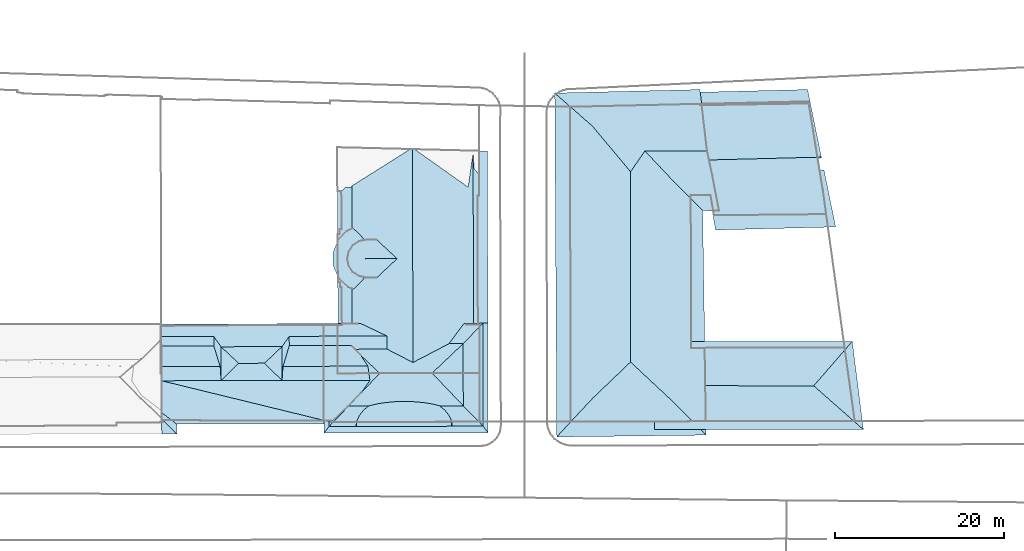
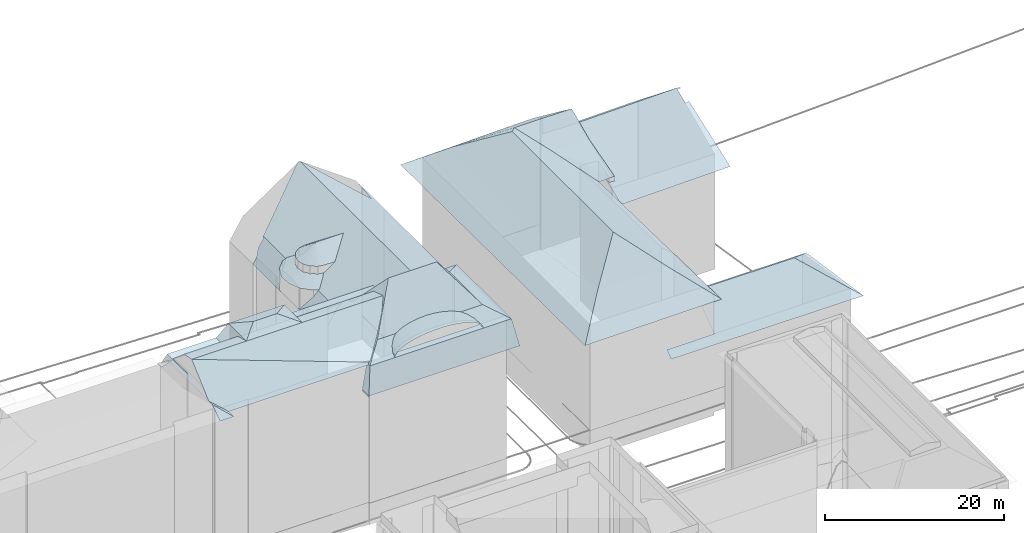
# Not in any storey, part 91 of 477: 4 roofs.
"""IFC4 building model written with IfcOpenShell, lengths in metres."""

from ifc_helpers import new_model, si_unit, frame, origin_with_axes, place, context, subcontext, project, spatial, polygons, element, save


model = new_model("IFC4")

# Units and contexts
model_context = context("Model", 3, precision=1e-05, world=origin_with_axes())
body_context = subcontext(model_context, "Body", "Model", "MODEL_VIEW")
ifc_project = project(units=[si_unit("AREAUNIT", "SQUARE_METRE"), si_unit("LENGTHUNIT", "METRE")], contexts=[model_context])

# Sites, building
site_1_placement = place(None, origin_with_axes())
site_1 = spatial("IfcSite", under=ifc_project, at=site_1_placement, Name="Topoexport Site")
site_2_placement = place(site_1_placement, origin_with_axes())
site_2 = spatial("IfcSite", under=site_1, at=site_2_placement, Name="TPX_BUILDINGS")
building_1_placement = place(site_2_placement, frame((609.5167320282, 438.1375160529, 539.7593), z_axis=(0.0, 0.0, 1.0), x_axis=(1.0, 0.0, 0.0)))
building_1 = spatial("IfcBuilding", under=site_2, at=building_1_placement, Name="Building 191", CompositionType="ELEMENT")

# Roofs
roof_1_placement = place(None, frame((609.5167320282, 438.1375160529, 539.7593), z_axis=(0.0, 0.0, 1.0), x_axis=(1.0, 0.0, 0.0)))
element("IfcRoof", 1, at=roof_1_placement, inside=building_1, Name="Roof 0", context=body_context, shape_type="Tessellation", body=[
    polygons([(7.182, -6.7129000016, 26.5614), (0.1229999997, -6.7294999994, 26.5614), (0.117999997, -5.0557000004, 26.2435), (7.0639999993, -5.0390999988, 26.2435), (22.6569999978, -2.5487999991, 24.1586), (23.7399999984, -3.7177999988, 25.1555), (15.2630000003, -2.566399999, 24.1586), (14.5229999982, -5.0195000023, 26.2434), (24.5859999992, -4.995099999, 26.2434), (23.8159999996, -3.7168000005, 25.1555), (6.3129999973, -2.5888999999, 24.1587), (0.1099999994, -2.6035000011, 24.1587), (9.2599999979, -4.6561999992, 27.2724), (7.1719999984, -2.697300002, 26.5614), (14.4029999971, -2.6787, 26.5614), (14.4129999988, -6.6942999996, 26.5614), (12.3249999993, -4.6484000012, 27.2724), (0.0039999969, -1.4941000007, 24.1587), (0.1109999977, -2.8388999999, 24.1587), (0.0149999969, -5.9228999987, 24.1587), (6.3099999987, -1.4785000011, 24.1587), (0.1209999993, -5.9228999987, 24.1587), (26.873999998, -2.9805000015, 24.1586), (22.8899999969, -2.7831999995, 24.1586), (15.2599999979, -1.4570000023, 24.1587), (26.8699999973, -1.4277000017, 24.1586), (23.0949999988, -2.9912, 24.1586), (24.8359999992, -6.6689000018, 26.5614), (37.7669999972, -11.6112999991, 22.2818), (35.9029999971, -9.6992000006, 23.2977), (35.8849999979, -2.3300999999, 23.2977), (37.8439999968, -0.2987999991, 22.2248), (38.2239999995, 0.0947000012, 22.0168), (38.2539999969, -12.1112999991, 22.0168), (20.117999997, -11.441399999, 22.0938), (19.9759999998, -11.5283000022, 22.0168), (19.9759999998, -11.441399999, 22.0168), (20.4719999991, -11.6445000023, 22.2878), (23.1619999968, -12.1484000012, 22.0168), (19.9780000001, -12.1572000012, 22.0168), (22.3169999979, -9.7314000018, 23.2977), (23.5729999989, -10.8486000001, 22.7048), (23.2469999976, -11.566399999, 22.3248), (24.6699999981, -9.7256000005, 23.2977), (24.1019999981, -10.1875, 23.0537), (34.2029999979, -2.3339999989, 23.2977), (36.0039999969, 0.0898000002, 22.0168), (34.5309999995, -11.5390999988, 22.3248), (34.2019999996, -10.8232000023, 22.7048), (33.6689999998, -10.1649999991, 23.0537), (33.0989999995, -9.7061000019, 23.2977), (34.618999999, -12.121100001, 22.0168), (23.2479999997, -11.9442999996, 22.1248), (34.3949999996, -11.6182000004, 22.2828), (34.5319999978, -11.9169999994, 22.1248), (23.3859999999, -11.6396999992, 22.2868), (34.561999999, -12.121100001, 22.0168), (23.2179999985, -12.1484000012, 22.0168), (34.2049999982, -12.1220999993, 22.7048), (33.6729999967, -12.1229999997, 23.0537), (32.9579999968, -12.125, 23.3607), (32.9519999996, -9.6552999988, 23.3607), (32.0859999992, -12.1270000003, 23.6127), (32.0789999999, -9.4512000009, 23.6127), (31.0920000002, -12.128899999, 23.7997), (31.0849999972, -9.3007999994, 23.7997), (30.0130000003, -12.1317999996, 23.9146), (30.0059999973, -9.2100000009, 23.9146), (28.8899999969, -12.134800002, 23.9536), (28.8829999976, -9.1807000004, 23.9536), (27.7679999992, -12.1376999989, 23.9146), (27.7609999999, -9.2148000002, 23.9147), (26.6889999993, -12.1396000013, 23.7997), (26.682, -9.3115000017, 23.7997), (25.6939999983, -12.1425999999, 23.6127), (25.686999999, -9.4668000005, 23.6127), (24.8229999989, -12.1445000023, 23.3607), (24.818, -9.6737999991, 23.3607), (24.106999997, -12.1464999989, 23.0537), (23.5759999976, -12.1475000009, 22.7048), (20.186999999, -11.6229999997, 22.1318), (20.5009999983, -11.4307000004, 22.3028), (19.9759999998, -11.572300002, 22.0168), (21.1490000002, -10.8095999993, 22.6578), (22.2089999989, -9.7949000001, 23.2387), (22.3169999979, -9.6807000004, 23.2977), (22.2089999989, -9.7949000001, 23.7657), (23.935999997, -7.9726999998, 25.3945), (0.1030000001, 0.0, 21.9439), (0.0, 0.0, 21.9439), (25.2799999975, -0.6719000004, 23.0328), (23.7419999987, 0.058600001, 21.9439), (21.5199999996, 0.052699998, 21.9439), (32.2060000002, -5.8203000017, 28.0613), (19.379999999, -12.9492000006, 18.5952), (38.8559999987, -12.9004000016, 18.5951), (25.9949999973, -5.8368999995, 28.0613), (34.6199999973, -11.6191000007, 22.0068), (34.6419999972, -11.6191000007, 21.9308), (34.6429999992, -11.9072000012, 21.9298), (34.5989999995, -11.6182000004, 22.0828), (23.1479999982, -11.6387000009, 21.9708), (23.1380000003, -11.9345999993, 21.9298), (23.1369999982, -11.6387000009, 21.9298), (23.1799999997, -11.6396000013, 22.0868), (34.5319999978, -12.121100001, 22.3248), (23.2479999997, -12.1484000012, 22.3248), (23.367999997, -8.5732000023, 24.6586), (29.935999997, -4.558600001, 26.3264), (23.4329999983, -3.3320000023, 24.6266), (38.8249999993, 0.0976999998, 18.5952), (38.8249999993, 0.0976999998, 18.3952), (38.2539999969, -12.1112999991, 21.8168), (38.8559999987, -12.9004000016, 18.3952), (38.2239999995, 0.0947000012, 21.8169), (19.3759999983, -11.441399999, 18.3952), (19.379999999, -12.9492000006, 18.3952), (19.9780000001, -12.1572000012, 21.8169), (19.9759999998, -11.441399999, 21.8169), (19.9699999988, -11.5692999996, 21.9798), (19.3759999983, -11.441399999, 18.5952)], [[[3, 2, 1]], [[1, 4, 3]], [[7, 6, 5]], [[6, 7, 8]], [[9, 6, 8]], [[6, 10, 5]], [[12, 3, 11]], [[4, 11, 3]], [[14, 1, 13]], [[17, 16, 15]], [[13, 1, 16]], [[16, 17, 13]], [[14, 13, 17]], [[17, 15, 14]], [[20, 19, 18]], [[18, 19, 12]], [[18, 12, 21]], [[22, 19, 20]], [[11, 21, 12]], [[5, 24, 23]], [[25, 7, 5]], [[25, 5, 26]], [[24, 27, 23]], [[23, 26, 5]], [[8, 16, 28]], [[28, 9, 8]], [[31, 30, 29]], [[31, 29, 32]], [[32, 34, 33]], [[34, 32, 29]], [[37, 36, 35]], [[40, 39, 38]], [[42, 41, 38]], [[38, 39, 43]], [[43, 42, 38]], [[45, 44, 41]], [[42, 45, 41]], [[47, 46, 31]], [[33, 47, 32]], [[32, 47, 31]], [[49, 48, 29]], [[51, 50, 30]], [[49, 30, 50]], [[52, 34, 29]], [[30, 49, 29]], [[29, 48, 52]], [[55, 54, 53]], [[53, 54, 56]], [[53, 58, 57]], [[55, 53, 57]], [[50, 60, 59]], [[50, 59, 49]], [[62, 61, 50]], [[50, 51, 62]], [[50, 61, 60]], [[64, 63, 62]], [[62, 63, 61]], [[66, 65, 64]], [[64, 65, 63]], [[68, 67, 66]], [[67, 65, 66]], [[70, 69, 67]], [[70, 67, 68]], [[72, 71, 70]], [[70, 71, 69]], [[74, 73, 71]], [[74, 71, 72]], [[76, 75, 73]], [[76, 73, 74]], [[78, 77, 75]], [[78, 75, 76]], [[45, 79, 44]], [[78, 44, 79]], [[78, 79, 77]], [[42, 80, 79]], [[42, 79, 45]], [[40, 38, 81]], [[81, 38, 82]], [[40, 81, 83]], [[84, 82, 38]], [[85, 84, 38]], [[85, 41, 86]], [[38, 41, 85]], [[1, 2, 82]], [[87, 16, 1]], [[82, 2, 81]], [[88, 16, 87]], [[28, 16, 88]], [[87, 1, 82]], [[18, 21, 89]], [[18, 89, 90]], [[91, 89, 21]], [[91, 21, 25]], [[25, 26, 91]], [[93, 91, 92]], [[93, 89, 91]], [[21, 14, 15]], [[15, 25, 21]], [[4, 1, 14]], [[14, 21, 11]], [[14, 11, 4]], [[16, 8, 15]], [[15, 7, 25]], [[7, 15, 8]], [[30, 31, 94]], [[40, 95, 39]], [[58, 39, 95]], [[95, 57, 58]], [[57, 96, 52]], [[96, 57, 95]], [[34, 52, 96]], [[41, 44, 78]], [[41, 78, 76]], [[76, 97, 41]], [[97, 76, 74]], [[74, 72, 97]], [[97, 72, 70]], [[64, 62, 30]], [[51, 30, 62]], [[64, 30, 94]], [[70, 68, 94]], [[66, 94, 68]], [[94, 66, 64]], [[70, 94, 97]], [[100, 99, 98]], [[98, 101, 100]], [[104, 103, 102]], [[105, 102, 103]], [[48, 106, 52]], [[48, 49, 59]], [[48, 59, 106]], [[42, 107, 80]], [[42, 43, 107]], [[107, 43, 39]], [[88, 108, 41]], [[86, 41, 108]], [[88, 41, 97]], [[28, 97, 9]], [[97, 28, 88]], [[6, 9, 97]], [[10, 6, 97]], [[109, 10, 97]], [[27, 110, 23]], [[23, 110, 10]], [[10, 109, 23]], [[109, 94, 46]], [[97, 94, 109]], [[46, 94, 31]], [[34, 96, 111]], [[111, 33, 34]], [[114, 113, 112]], [[115, 112, 113]], [[118, 117, 116]], [[116, 119, 118]], [[40, 83, 120]], [[121, 40, 120]], [[40, 121, 95]], [[121, 120, 37]], [[37, 120, 36]]]),
])
roof_2_placement = place(None, frame((609.5167320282, 438.1375160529, 539.7593), z_axis=(0.0, 0.0, 1.0), x_axis=(1.0, 0.0, 0.0)))
element("IfcRoof", 2, at=roof_2_placement, inside=building_1, Name="Roof 1", context=body_context, shape_type="Tessellation", body=[
    polygons([(1.6579999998, -0.2324000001, 22.1459), (12.1099999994, -0.2871000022, 22.2138), (1.5789999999, -0.3125, 22.2139), (1.8949999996, 0.004900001, 21.9439), (19.9349999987, 0.0498000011, 21.9439), (20.182, -0.1777000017, 22.1378), (20.2839999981, -0.2675999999, 22.2158), (15.5589999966, -0.2783000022, 22.2148), (19.9479999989, -0.0361000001, 22.0169), (20.1369999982, -0.1436000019, 22.1198), (19.9479999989, 0.0498000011, 22.0169), (23.5629999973, 0.0595999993, 22.0169), (23.7789999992, -0.2274999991, 22.1688), (20.2509999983, -0.2362999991, 22.1688), (1.5789999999, -0.3125, 22.1629), (0.1079999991, -1.7890999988, 23.1778), (0.1030000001, 0.0009999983, 21.9439), (1.6579999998, -0.2324000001, 22.1079), (0.1409999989, -13.0331999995, 21.9439), (0.1359999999, -11.2479999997, 23.1747), (0.305999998, -11.4111000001, 23.0598), (1.9269999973, -13.0283000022, 21.9439), (0.1229999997, -6.7294999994, 26.5614), (0.2869999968, -10.6229999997, 23.0708), (0.1339999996, -10.5088, 23.1747), (22.8549999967, 4.125, 21.5219), (23.1779999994, 0.057599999, 21.7439), (22.731999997, 0.0566000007, 21.4279), (22.7219999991, 4.1757999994, 21.4279), (23.2809999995, 0.058600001, 21.8169), (23.9539999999, 5.2118999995, 22.3028), (23.3399999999, -0.0195000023, 21.8579), (22.8369999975, 11.3632999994, 21.5219), (22.7049999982, 11.3057000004, 21.4279), (22.6919999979, 16.3838, 21.4279), (23.7939999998, 10.4501999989, 22.1988), (25.7989999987, 18.3427999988, 23.6337), (24.2089999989, 5.5458999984, 22.4838), (24.3999999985, 5.5077999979, 22.6198), (24.3929999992, 9.990199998, 22.6228), (25.362999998, 9.9912, 23.3097), (24.1919999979, 9.9501999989, 22.4798), (28.4689999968, -4.0947000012, 25.4875), (26.3099999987, -2.9824000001, 23.9587), (26.305999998, -1.4287, 23.9587), (25.6559999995, 5.5097999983, 23.5097), (28.050999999, 7.753899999, 25.2116), (29.936999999, -4.8506000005, 26.5264), (25.6449999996, 9.9921999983, 23.5097), (25.373999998, 5.5088, 23.3097), (27.8659999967, 19.6475000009, 25.1016), (29.5920000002, 20.7344000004, 26.3265), (29.873999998, 20.7256000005, 26.5264), (30.1559999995, 20.7157999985, 26.3265), (31.1449999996, -4.2206999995, 25.6685), (34.7669999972, -2.3330000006, 23.0977), (31.7390000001, 19.5918000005, 25.2066), (36.4809999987, 16.2285000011, 21.8499), (37.1169999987, -0.1084000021, 21.4279), (36.4179999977, -0.1103000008, 21.9238), (36.8429999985, 18.746100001, 21.5899), (37.0669999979, 20.2969000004, 21.4279), (21.0350000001, 8.3359000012, 21.8479), (20.4799999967, 6.873999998, 21.5219), (20.443, 8.4404000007, 21.5219), (22.1559999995, 7.745099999, 22.4608), (22.2309999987, 8.1270000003, 22.5068), (22.2509999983, 7.2694999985, 22.5068), (21.112999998, 5.442400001, 21.5219), (21.0479999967, 5.5888999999, 21.5219), (22.5969999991, 6.4853999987, 22.5068), (22.3269999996, 6.8887000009, 22.4598), (22.8139999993, 6.1620999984, 22.4608), (22.2449999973, 4.3612999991, 21.5219), (23.2179999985, 5.8935999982, 22.5068), (22.0889999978, 11.0331999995, 21.5219), (23.1329999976, 9.5478999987, 22.5078), (22.8099999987, 9.3310999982, 22.4608), (21.0279999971, 9.9208999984, 21.5219), (22.5409999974, 8.9267999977, 22.5078), (21.0079999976, 9.9003999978, 21.5219), (22.3249999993, 8.6035000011, 22.4608), (23.5419999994, 5.6767999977, 22.4608), (24.0179999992, 5.5830000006, 22.5068), (23.9179999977, 9.8955000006, 22.5068), (23.5359999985, 9.8183999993, 22.4608), (23.5419999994, 5.6767999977, 23.5097), (22.8139999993, 6.1620999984, 23.5097), (24.3969999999, 7.748999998, 25.2116), (24.3999999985, 5.5077999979, 23.5097), (23.5359999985, 9.8183999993, 23.5097), (24.3929999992, 9.990199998, 23.5097), (22.8099999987, 9.3310999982, 23.5097), (22.3249999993, 8.6035000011, 23.5097), (22.1559999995, 7.745099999, 23.5097), (22.3269999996, 6.8887000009, 23.5097), (1.9239999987, -11.8779000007, 21.9439), (0.6490000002, -10.9004000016, 22.8228), (0.7719999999, -11.8808999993, 21.9439), (0.3039999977, -11.4131000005, 22.3628), (0.7129999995, -11.4101999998, 22.3658), (1.0189999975, -11.4072000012, 22.3678), (1.6339999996, -11.878899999, 21.9439), (20.2769999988, -11.6445000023, 22.1118), (20.0810000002, -11.8330000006, 21.9438), (0.6169999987, -10.6533000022, 22.8438), (0.4159999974, -10.4990000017, 22.9818), (0.2589999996, -10.3808999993, 23.0878), (0.1329999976, -10.2861000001, 23.1747), (1.9229999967, -11.4004000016, 21.9439), (1.9239999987, -11.6552999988, 21.9439), (1.7939999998, -0.3115000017, 22.0139), (1.8959999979, -0.2294999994, 21.9439), (19.9749999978, -0.1445000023, 21.9099), (20.2459999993, -0.2362999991, 21.9889), (20.2289999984, -0.2362999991, 21.9689), (22.2449999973, 4.3612999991, 20.637), (21.5199999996, 0.052699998, 19.4171), (22.6579999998, 4.2012000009, 21.3219), (21.112999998, 5.442400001, 18.7642), (21.5209999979, -0.1405999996, 19.4181), (21.0249999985, -0.1416000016, 18.5952), (21.0479999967, 5.5888999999, 18.6572), (21.0359999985, 6.6719000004, 18.6422), (20.9859999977, 15.7421999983, 18.5952), (21.0309999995, 7.754900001, 18.6372), (21.0279999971, 8.8378999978, 18.6372), (22.6409999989, 11.2773000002, 21.3219), (22.5719999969, 16.1992000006, 21.228), (22.0889999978, 11.0331999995, 20.406), (21.9299999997, 16.2256000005, 20.1631), (21.4519999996, 15.7274999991, 19.3691), (21.0279999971, 9.9208999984, 18.6422), (38.8389999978, -5.8280999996, 18.5952), (37.856999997, -5.8300999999, 20.224), (37.8429999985, -0.1074000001, 20.223), (38.7740000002, 20.498999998, 18.5952), (37.8149999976, 17.692400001, 20.197), (37.5099999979, 18.061499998, 20.702), (37.805999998, 20.5243999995, 20.2), (37.1919999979, 18.4442999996, 21.2279), (19.6459999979, -0.1445000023, 20.293), (19.3479999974, -0.1445000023, 18.5952), (19.3479999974, 0.0478999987, 18.5952), (19.8999999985, 0.0498000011, 21.7439), (19.9289999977, -0.1436000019, 21.9089), (19.6600000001, -0.1445000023, 20.173), (19.3479999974, 0.0478999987, 18.3952), (19.3479999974, -0.1445000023, 18.3952), (19.9479999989, -0.1436000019, 21.8189), (19.9479999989, -0.0361000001, 21.8169), (19.9349999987, 0.0498000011, 21.7439), (1.9029999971, -2.9658000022, 21.7939), (1.8949999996, 0.004900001, 21.7439), (1.8959999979, -0.2274999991, 21.7439), (1.9169999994, -8.9072000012, 21.9209)], [[[3, 2, 1]], [[2, 4, 1]], [[4, 2, 5]], [[8, 7, 6]], [[5, 2, 9]], [[9, 8, 6]], [[9, 2, 8]], [[12, 11, 10]], [[10, 6, 13]], [[12, 10, 13]], [[6, 14, 13]], [[11, 9, 10]], [[6, 10, 9]], [[17, 16, 15]], [[18, 4, 17]], [[18, 17, 15]], [[21, 20, 19]], [[19, 22, 21]], [[25, 24, 23]], [[28, 27, 26]], [[26, 29, 28]], [[27, 30, 26]], [[12, 13, 31]], [[32, 30, 27]], [[30, 12, 26]], [[31, 26, 12]], [[35, 34, 33]], [[35, 33, 36]], [[36, 37, 35]], [[39, 38, 31]], [[40, 37, 36]], [[41, 37, 40]], [[40, 36, 42]], [[31, 13, 39]], [[45, 44, 43]], [[13, 45, 46]], [[45, 43, 47]], [[47, 43, 48]], [[41, 49, 37]], [[46, 50, 13]], [[50, 39, 13]], [[37, 47, 51]], [[47, 37, 49]], [[47, 52, 51]], [[52, 47, 53]], [[47, 48, 53]], [[45, 47, 46]], [[48, 55, 54]], [[57, 55, 56]], [[53, 48, 54]], [[54, 55, 57]], [[60, 59, 58]], [[57, 60, 58]], [[61, 58, 59]], [[61, 59, 62]], [[60, 57, 56]], [[65, 64, 63]], [[66, 63, 64]], [[67, 63, 66]], [[66, 64, 68]], [[71, 70, 69]], [[72, 64, 70]], [[68, 64, 72]], [[72, 70, 71]], [[69, 74, 73]], [[75, 73, 74]], [[73, 71, 69]], [[78, 77, 76]], [[80, 78, 79]], [[79, 81, 80]], [[79, 78, 76]], [[82, 80, 81]], [[67, 82, 63]], [[65, 63, 81]], [[81, 63, 82]], [[26, 31, 74]], [[74, 31, 83]], [[84, 83, 31]], [[83, 75, 74]], [[84, 31, 38]], [[33, 85, 36]], [[86, 33, 76]], [[77, 86, 76]], [[86, 85, 33]], [[36, 85, 42]], [[89, 88, 87]], [[89, 87, 90]], [[89, 92, 91]], [[89, 91, 93]], [[94, 89, 93]], [[89, 94, 95]], [[96, 89, 95]], [[89, 96, 88]], [[89, 90, 46]], [[46, 47, 89]], [[92, 89, 49]], [[47, 49, 89]], [[20, 24, 25]], [[22, 97, 21]], [[21, 98, 24]], [[98, 21, 97]], [[21, 24, 20]], [[101, 100, 99]], [[99, 103, 102]], [[99, 102, 101]], [[105, 104, 97]], [[97, 104, 98]], [[104, 24, 98]], [[104, 23, 24]], [[107, 106, 16]], [[108, 107, 16]], [[16, 109, 108]], [[106, 15, 16]], [[106, 110, 15]], [[110, 106, 111]], [[112, 15, 110]], [[113, 112, 110]], [[116, 115, 114]], [[118, 28, 117]], [[28, 29, 119]], [[119, 117, 28]], [[118, 117, 120]], [[121, 118, 120]], [[121, 120, 122]], [[120, 123, 122]], [[123, 124, 122]], [[122, 126, 125]], [[124, 126, 122]], [[125, 126, 127]], [[129, 128, 34]], [[128, 129, 130]], [[131, 130, 129]], [[129, 34, 35]], [[133, 132, 125]], [[133, 131, 132]], [[133, 130, 131]], [[133, 125, 127]], [[136, 135, 134]], [[138, 136, 137]], [[136, 134, 137]], [[136, 138, 139]], [[136, 139, 59]], [[138, 137, 140]], [[139, 141, 59]], [[62, 59, 141]], [[9, 11, 5]], [[14, 6, 7]], [[144, 143, 142]], [[145, 144, 142]], [[145, 142, 146]], [[149, 148, 147]], [[147, 151, 150]], [[147, 152, 151]], [[147, 148, 152]], [[155, 154, 153]], [[111, 156, 110]]]),
])

# Building
building_2_placement = place(site_2_placement, frame((658.1087320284, 463.8807160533, 539.0134), z_axis=(0.0, 0.0, 1.0), x_axis=(1.0, 0.0, 0.0)))
building_2 = spatial("IfcBuilding", under=site_2, at=building_2_placement, Name="Building 192", CompositionType="ELEMENT")

# Roofs
roof_3_placement = place(None, frame((658.1087320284, 463.8807160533, 539.0134), z_axis=(0.0, 0.0, 1.0), x_axis=(1.0, 0.0, 0.0)))
element("IfcRoof", 3, at=roof_3_placement, inside=building_2, Name="Roof 0", context=body_context, shape_type="Tessellation", body=[
    polygons([(15.9579999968, -28.5850000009, 10.9528), (14.3609999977, -28.5879000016, 10.9568), (14.3589999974, -27.8027999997, 10.3469), (33.4499999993, -27.7969000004, 10.3289), (32.5909999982, -28.7871000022, 11.0988), (28.8729999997, -33.0703000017, 14.4285), (16.0279999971, -33.058600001, 14.4285), (16.0939999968, -37.2979000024, 11.0978), (9.992999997, -38.2442000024, 10.3509), (9.993999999, -37.3095999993, 11.0848), (33.629999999, -37.2608000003, 11.1398), (34.7699999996, -38.2657000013, 10.3509)], [[[3, 2, 1]], [[3, 1, 4]], [[6, 5, 1]], [[4, 1, 5]], [[1, 7, 6]], [[10, 9, 8]], [[8, 12, 11]], [[12, 8, 9]], [[11, 6, 8]], [[8, 6, 7]], [[11, 12, 4]], [[5, 6, 11]], [[4, 5, 11]]]),
])
roof_4_placement = place(None, frame((658.1087320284, 463.8807160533, 539.0134), z_axis=(0.0, 0.0, 1.0), x_axis=(1.0, 0.0, 0.0)))
element("IfcRoof", 4, at=roof_4_placement, inside=building_2, Name="Roof 1", context=body_context, shape_type="Tessellation", body=[
    polygons([(16.487999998, -10.4453000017, 17.7452), (16.6599999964, -10.4463, 17.7412), (17.2269999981, -14.5888999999, 14.5385), (16.9689999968, -12.3155000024, 16.2954), (17.6669999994, -12.3252000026, 16.2744), (31.4780000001, -14.2285000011, 14.5385), (29.5839999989, -7.4697999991, 19.783), (17.0549999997, -9.1407000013, 18.7391), (16.8699999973, -8.1768000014, 19.4861), (16.686999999, -7.3183999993, 20.151), (29.3589999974, -6.0840000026, 20.8559), (16.4669999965, -6.2822999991, 20.9539), (30.0959999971, -7.4571000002, 19.783), (29.7879999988, -5.9453000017, 20.9539), (29.3379999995, -5.9561000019, 20.9539), (29.8139999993, -6.0733000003, 20.8549), (15.6049999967, 0.1932999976, 15.7844), (28.1509999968, 2.0751999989, 14.5385), (15.3859999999, 0.3495999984, 15.6554), (16.2399999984, -5.2159000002, 20.101), (14.5659999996, 0.3310000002, 15.6534), (14.3169999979, 1.7256000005, 14.5385), (15.3899999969, 0.1904000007, 15.7824), (-1.8450000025, 1.6532999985, 16.8063), (15.3839999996, 2.0713, 16.8423), (9.9649999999, 0.2265000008, 18.2122), (2.629999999, -2.2696000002, 20.067), (0.0399999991, 0.0009000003, 18.1792), (0.0219999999, -13.4013999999, 18.1612), (2.6449999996, -34.5595999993, 20.066), (16.118999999, -38.9169999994, 16.8063), (-1.6020000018, -39.1358000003, 16.8063), (3.6889999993, -37.3243000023, 18.0972), (11.7629999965, -34.5595999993, 20.066), (14.5039999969, -37.3007999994, 18.0151), (16.8699999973, -8.1768000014, 19.561), (17.6669999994, -12.3252000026, 16.8863), (16.8819999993, -11.7901000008, 17.3093), (14.9199999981, -10.4532000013, 18.3652), (11.7629999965, -8.3018000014, 20.066), (14.310999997, -10.884800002, 17.9362), (15.7039999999, -12.2969000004, 16.7723), (16.9689999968, -12.3155000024, 16.8453), (14.3579999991, -26.5401000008, 18.1242), (16.0939999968, -37.2979000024, 16.8043), (15.8889999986, -37.2979000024, 16.9782), (15.9579999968, -28.5850000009, 16.7933), (7.1499999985, -30.2470999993, 23.8496), (7.1499999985, -7.6817000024, 23.8496), (8.8539999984, -5.2159000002, 22.2848), (16.2399999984, -5.2159000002, 22.2848), (0.0599999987, -37.3321000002, 18.0872), (15.6049999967, 0.1932999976, 18.2452)], [[[3, 2, 1]], [[2, 3, 4]], [[4, 3, 5]], [[5, 3, 6]], [[9, 8, 7]], [[10, 9, 7]], [[12, 10, 11]], [[5, 7, 8]], [[7, 11, 10]], [[7, 6, 13]], [[6, 7, 5]], [[15, 11, 14]], [[15, 12, 11]], [[16, 14, 11]], [[15, 18, 17]], [[17, 18, 19]], [[15, 17, 20]], [[15, 14, 18]], [[12, 15, 20]], [[19, 22, 21]], [[22, 19, 18]], [[23, 17, 19]], [[26, 25, 24]], [[28, 27, 26]], [[24, 28, 26]], [[24, 29, 28]], [[29, 27, 28]], [[27, 29, 30]], [[33, 32, 31]], [[33, 35, 34]], [[35, 33, 31]], [[38, 37, 36]], [[36, 40, 39]], [[36, 39, 38]], [[40, 41, 39]], [[39, 41, 42]], [[43, 38, 39]], [[37, 38, 43]], [[43, 39, 42]], [[41, 44, 42]], [[41, 40, 44]], [[46, 31, 45]], [[42, 44, 47]], [[45, 47, 46]], [[47, 44, 46]], [[34, 44, 40]], [[44, 34, 35]], [[35, 31, 46]], [[46, 44, 35]], [[30, 34, 48]], [[49, 48, 40]], [[34, 40, 48]], [[49, 40, 50]], [[50, 40, 51]], [[51, 40, 36]], [[27, 49, 50]], [[29, 24, 32]], [[52, 30, 29]], [[32, 52, 29]], [[52, 32, 33]], [[30, 33, 34]], [[33, 30, 52]], [[27, 30, 49]], [[48, 49, 30]], [[26, 27, 50]], [[53, 50, 51]], [[26, 53, 25]], [[53, 26, 50]]]),
])

save(model, "model.ifc")
